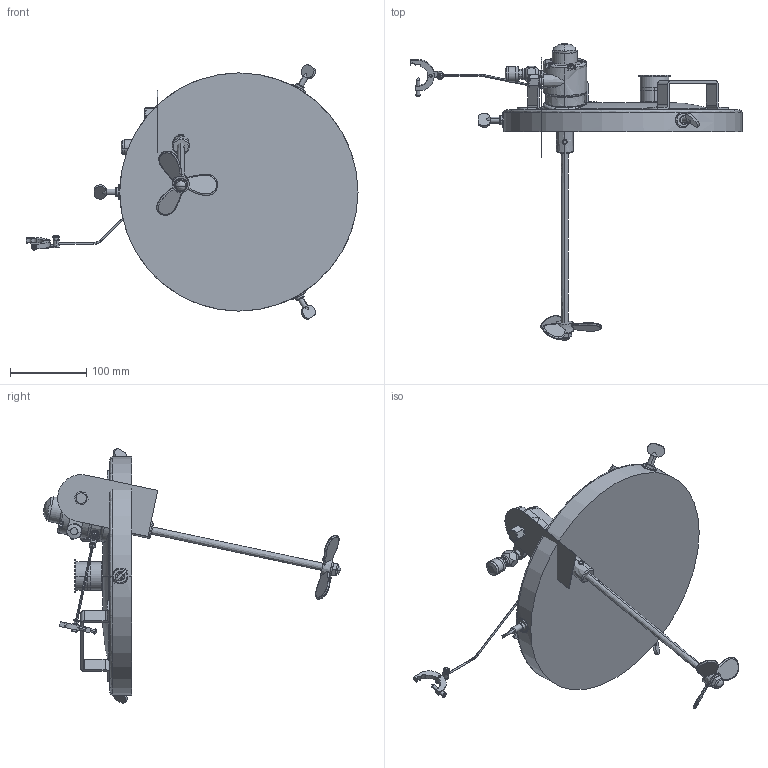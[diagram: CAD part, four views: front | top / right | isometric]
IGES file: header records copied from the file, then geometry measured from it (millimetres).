
Start section:  PTC IGES file: 226086-en-u.igs
Global section: file name: 226086-en-u.igs; native system: Creo Parametric by PTC Inc.; preprocessor: 2019030; author: qusrh3; organization: Unknown; date: 20191231.155449; units: inch
Bounding box: 435.68 x 389.89 x 333.93 mm (x, y, z)
Surface area: 329863.9 mm2 (no closed solid volume)
Topology: 0 solids, 0 shells, 497 faces, 2291 edges, 2282 vertices
Faces by surface type: revolution 285, bspline 212
